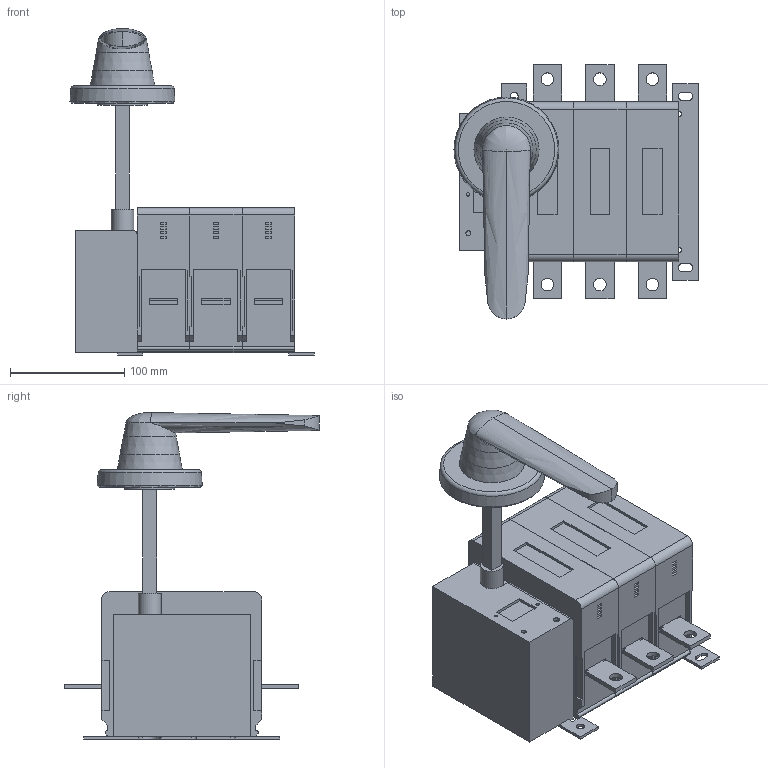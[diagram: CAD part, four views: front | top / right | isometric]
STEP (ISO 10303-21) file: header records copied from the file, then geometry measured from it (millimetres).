
FILE_DESCRIPTION (( 'STEP AP203' ), '1' );
FILE_NAME ('OptiSwitch DI-3-400-3P (m=5,2羱).STEP', '2023-02-26T15:44:38', ( '砐錪賧瘔蠈錪' ), ( '' ), 'SwSTEP 2.0', 'SolidWorks 2018', '' );
FILE_SCHEMA (( 'CONFIG_CONTROL_DESIGN' ));
Length unit declared in the file: millimetre
Products named in the file (1): OptiSwitch DI-3-400-3P (m=5,2羱)
Bounding box: 213.8 x 223.02 x 286.28 mm (x, y, z)
Volume: 3341430 mm3; surface area: 212804.4 mm2
Topology: 1 solids, 1 shells, 460 faces, 1229 edges, 811 vertices
Faces by surface type: plane 398, cylinder 46, bspline 10, cone 5, torus 1
Full cylindrical faces by diameter (mm): 3 x2, 4.2 x1, 5.5 x1, 7 x2, 11 x6, 20 x1, 44 x1
Entity records: 17297 total; most frequent: CARTESIAN_POINT 5769, ORIENTED_EDGE 2406, DIRECTION 2184, EDGE_CURVE 1203, LINE 1084, VECTOR 1084, VERTEX_POINT 807, AXIS2_PLACEMENT_3D 550
